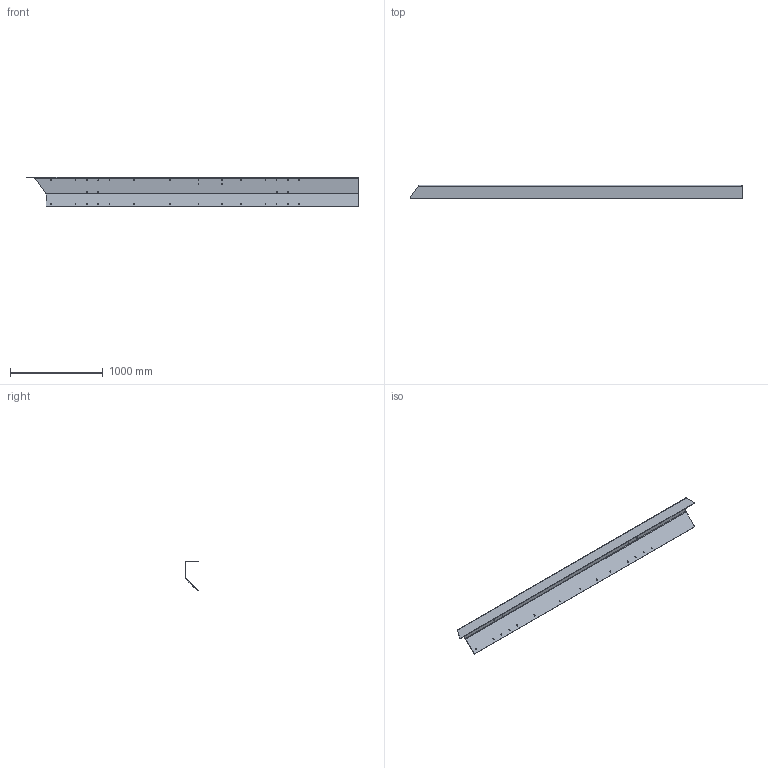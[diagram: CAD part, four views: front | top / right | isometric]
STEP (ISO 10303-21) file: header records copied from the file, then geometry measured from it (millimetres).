
FILE_DESCRIPTION(/* description */ (''),/* implementation_level */ '2;1');
FILE_NAME(/* name */ '7386162ugm000~00.stp',/* time_stamp */ '2023-05-09T16:43:31+02:00',/* author */ (''),/* organization */ (''),/* preprocessor_version */ 'ST-DEVELOPER v18.1',/* originating_system */ 'SIEMENS PLM Software NX 2000',/* authorisation */ '');
FILE_SCHEMA (('AUTOMOTIVE_DESIGN { 1 0 10303 214 0 1 1 1 }'));
Length unit declared in the file: millimetre
Products named in the file (1): 7386162ugm000~00
Bounding box: 3576.63 x 146 x 320.76 mm (x, y, z)
Volume: 10327735.5 mm3; surface area: 3498712.1 mm2
Topology: 1 solids, 1 shells, 330 faces, 968 edges, 640 vertices
Faces by surface type: cylinder 159, plane 158, bspline 13
Entity records: 11390 total; most frequent: CARTESIAN_POINT 2246, ORIENTED_EDGE 1936, DIRECTION 1888, EDGE_CURVE 968, VERTEX_POINT 640, LINE 632, VECTOR 632, AXIS2_PLACEMENT_3D 628
